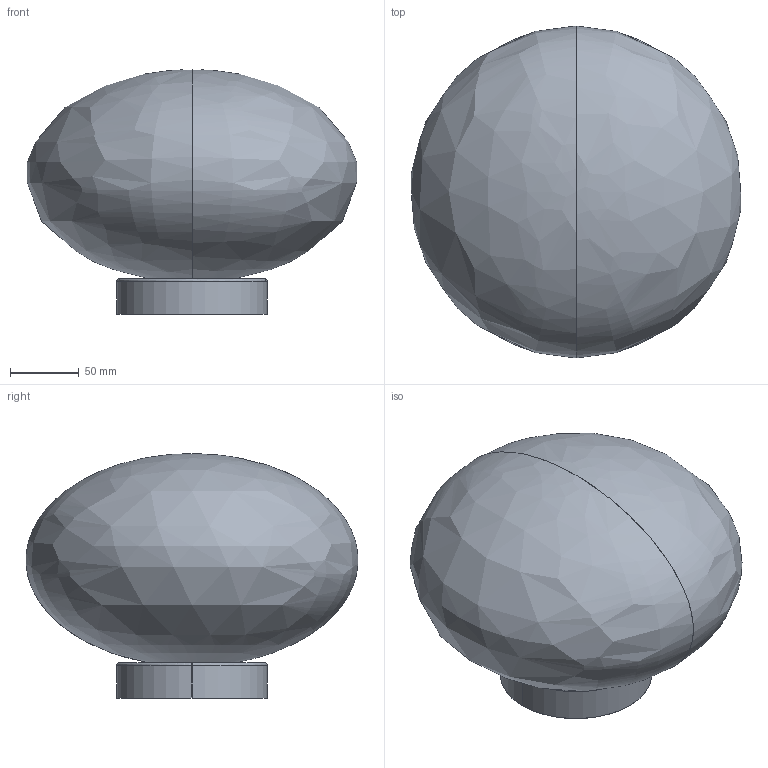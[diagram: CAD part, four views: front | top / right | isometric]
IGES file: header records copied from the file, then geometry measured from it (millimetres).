
Start section: SolidWorks IGES file using analytic representation for surfaces
Global section: file name: C:\Users\tungari.NEMOLIGHTING\Desktop\3D\WALL_CEILING\3D_MAGA_WALL\def\3D_MAGA_WALL.IGS; native system: SolidWorks 2016; preprocessor: SolidWorks 2016; author: tungari; date: 180312.092752; units: millimetre
Bounding box: 240 x 241.86 x 178.41 mm (x, y, z)
Surface area: 310985.4 mm2 (no closed solid volume)
Topology: 0 solids, 0 shells, 37 faces, 702 edges, 696 vertices
Faces by surface type: revolution 19, bspline 18
